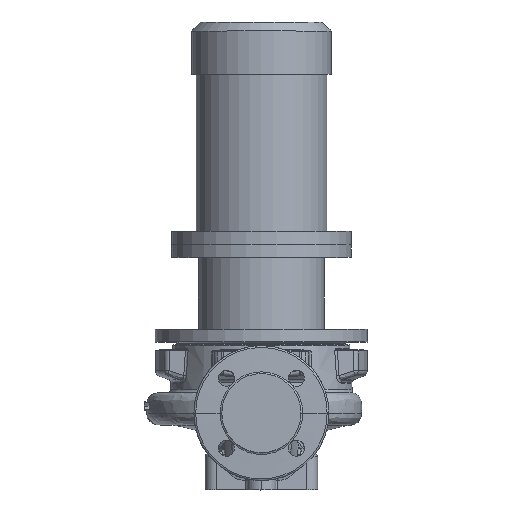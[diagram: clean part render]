
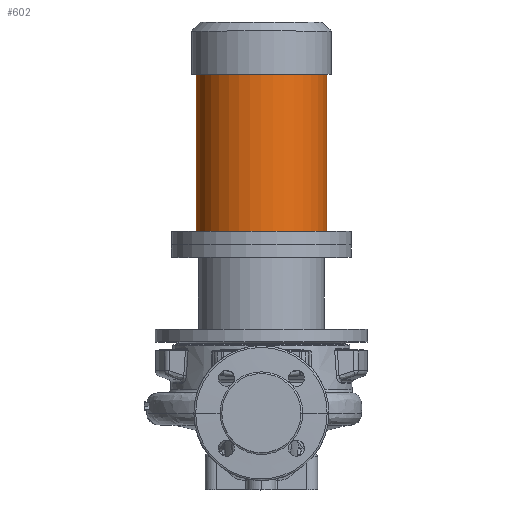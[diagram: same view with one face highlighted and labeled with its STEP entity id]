
A CAD part, top view. The second image highlights one B-rep face of the part: STEP entity #602.
In plain terms, the highlighted cylindrical face has radius 72.5 mm (diameter 145 mm), a partial arc.
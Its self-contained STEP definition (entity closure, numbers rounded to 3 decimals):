
#602 = ADVANCED_FACE ( 'NONE', ( #28557 ), #51173, .T. ) ;
#3289 = EDGE_LOOP ( 'NONE', ( #29083, #4546, #67412, #52923 ) ) ;
#3631 = EDGE_CURVE ( 'NONE', #63954, #66675, #13966, .T. ) ;
#4546 = ORIENTED_EDGE ( 'NONE', *, *, #3631, .T. ) ;
#7889 = CARTESIAN_POINT ( 'NONE',  ( 0., 376.8, 0. ) ) ;
#10318 = DIRECTION ( 'NONE',  ( 1., 0., 0. ) ) ;
#11150 = CARTESIAN_POINT ( 'NONE',  ( -72.5, 376.8, 0. ) ) ;
#12045 = CARTESIAN_POINT ( 'NONE',  ( 72.5, 376.8, 0. ) ) ;
#13966 = CIRCLE ( 'NONE', #43586, 72.5 ) ;
#14233 = CARTESIAN_POINT ( 'NONE',  ( -72.5, 434.8, 0. ) ) ;
#14804 = VERTEX_POINT ( 'NONE', #12045 ) ;
#22952 = DIRECTION ( 'NONE',  ( 0., 1., 0. ) ) ;
#23271 = EDGE_CURVE ( 'NONE', #40444, #14804, #44966, .T. ) ;
#24644 = AXIS2_PLACEMENT_3D ( 'NONE', #69450, #22952, #69206 ) ;
#28557 = FACE_OUTER_BOUND ( 'NONE', #3289, .T. ) ;
#29083 = ORIENTED_EDGE ( 'NONE', *, *, #30074, .F. ) ;
#30074 = EDGE_CURVE ( 'NONE', #63954, #40444, #36087, .T. ) ;
#30687 = VECTOR ( 'NONE', #71644, 1000. ) ;
#33303 = DIRECTION ( 'NONE',  ( 0., 1., 0. ) ) ;
#35862 = DIRECTION ( 'NONE',  ( 0., 1., 0. ) ) ;
#36087 = LINE ( 'NONE', #14233, #30687 ) ;
#37183 = CARTESIAN_POINT ( 'NONE',  ( -72.5, 202.3, 0. ) ) ;
#40444 = VERTEX_POINT ( 'NONE', #11150 ) ;
#40879 = LINE ( 'NONE', #70488, #54490 ) ;
#42710 = DIRECTION ( 'NONE',  ( 0., 1., 0. ) ) ;
#43586 = AXIS2_PLACEMENT_3D ( 'NONE', #67456, #33303, #10318 ) ;
#44966 = CIRCLE ( 'NONE', #56971, 72.5 ) ;
#51173 = CYLINDRICAL_SURFACE ( 'NONE', #24644, 72.5 ) ;
#51434 = CARTESIAN_POINT ( 'NONE',  ( 72.5, 202.3, 0. ) ) ;
#52923 = ORIENTED_EDGE ( 'NONE', *, *, #23271, .F. ) ;
#54490 = VECTOR ( 'NONE', #35862, 1000. ) ;
#56971 = AXIS2_PLACEMENT_3D ( 'NONE', #7889, #42710, #60410 ) ;
#60054 = EDGE_CURVE ( 'NONE', #66675, #14804, #40879, .T. ) ;
#60410 = DIRECTION ( 'NONE',  ( 1., 0., 0. ) ) ;
#63954 = VERTEX_POINT ( 'NONE', #37183 ) ;
#66675 = VERTEX_POINT ( 'NONE', #51434 ) ;
#67412 = ORIENTED_EDGE ( 'NONE', *, *, #60054, .T. ) ;
#67456 = CARTESIAN_POINT ( 'NONE',  ( 0., 202.3, 0. ) ) ;
#69206 = DIRECTION ( 'NONE',  ( 1., 0., 0. ) ) ;
#69450 = CARTESIAN_POINT ( 'NONE',  ( 0., 434.8, 0. ) ) ;
#70488 = CARTESIAN_POINT ( 'NONE',  ( 72.5, 434.8, 0. ) ) ;
#71644 = DIRECTION ( 'NONE',  ( 0., 1., 0. ) ) ;
